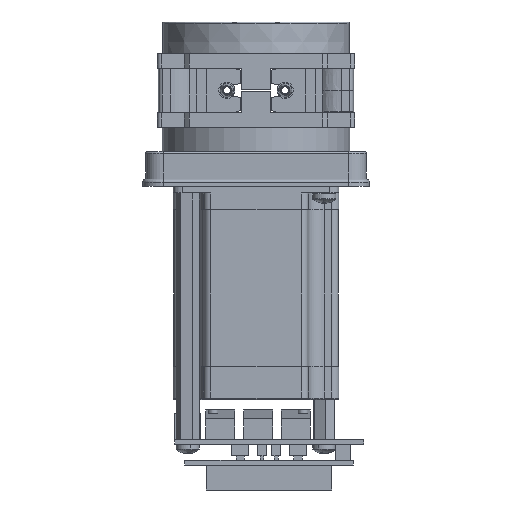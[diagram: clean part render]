
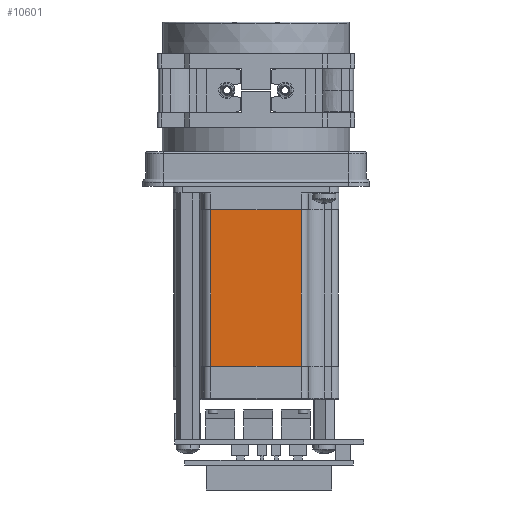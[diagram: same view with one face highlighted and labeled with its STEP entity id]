
A CAD part, front view. The second image highlights one B-rep face of the part: STEP entity #10601.
In plain terms, the highlighted planar face has unit normal (0, -1, 0).
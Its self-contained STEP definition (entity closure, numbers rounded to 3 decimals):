
#2692 = CARTESIAN_POINT ( 'NONE',  ( 15.57, -28.3, -41.1 ) ) ;
#3380 = DIRECTION ( 'NONE',  ( 0., 0., -1. ) ) ;
#3652 = ORIENTED_EDGE ( 'NONE', *, *, #19219, .T. ) ;
#4096 = VECTOR ( 'NONE', #27936, 1000. ) ;
#5145 = EDGE_CURVE ( 'NONE', #17707, #5244, #18251, .T. ) ;
#5244 = VERTEX_POINT ( 'NONE', #18756 ) ;
#5905 = EDGE_LOOP ( 'NONE', ( #23178, #3652, #10221, #12983 ) ) ;
#6300 = FACE_OUTER_BOUND ( 'NONE', #5905, .T. ) ;
#7408 = VERTEX_POINT ( 'NONE', #8119 ) ;
#8119 = CARTESIAN_POINT ( 'NONE',  ( -15.57, -28.3, -41.1 ) ) ;
#9823 = DIRECTION ( 'NONE',  ( 0., -1., 0. ) ) ;
#10221 = ORIENTED_EDGE ( 'NONE', *, *, #16330, .F. ) ;
#10235 = CARTESIAN_POINT ( 'NONE',  ( 15.57, -28.3, -41.1 ) ) ;
#10291 = EDGE_CURVE ( 'NONE', #17707, #7408, #29723, .T. ) ;
#10601 = ADVANCED_FACE ( 'NONE', ( #6300 ), #13727, .T. ) ;
#10764 = LINE ( 'NONE', #18820, #23667 ) ;
#12475 = VECTOR ( 'NONE', #3380, 1000. ) ;
#12983 = ORIENTED_EDGE ( 'NONE', *, *, #5145, .F. ) ;
#13727 = PLANE ( 'NONE',  #14000 ) ;
#14000 = AXIS2_PLACEMENT_3D ( 'NONE', #25158, #9823, #30494 ) ;
#16330 = EDGE_CURVE ( 'NONE', #5244, #18236, #10764, .T. ) ;
#17707 = VERTEX_POINT ( 'NONE', #2692 ) ;
#18236 = VERTEX_POINT ( 'NONE', #26896 ) ;
#18251 = LINE ( 'NONE', #30984, #30276 ) ;
#18687 = CARTESIAN_POINT ( 'NONE',  ( -15.57, -28.3, 50.01 ) ) ;
#18756 = CARTESIAN_POINT ( 'NONE',  ( 15.57, -28.3, -95.1 ) ) ;
#18820 = CARTESIAN_POINT ( 'NONE',  ( 15.57, -28.3, -95.1 ) ) ;
#19219 = EDGE_CURVE ( 'NONE', #7408, #18236, #25325, .T. ) ;
#19417 = DIRECTION ( 'NONE',  ( -1., 0., 0. ) ) ;
#23178 = ORIENTED_EDGE ( 'NONE', *, *, #10291, .T. ) ;
#23667 = VECTOR ( 'NONE', #19417, 1000. ) ;
#24954 = DIRECTION ( 'NONE',  ( 0., 0., -1. ) ) ;
#25158 = CARTESIAN_POINT ( 'NONE',  ( 15.57, -28.3, 50.01 ) ) ;
#25325 = LINE ( 'NONE', #18687, #12475 ) ;
#26896 = CARTESIAN_POINT ( 'NONE',  ( -15.57, -28.3, -95.1 ) ) ;
#27936 = DIRECTION ( 'NONE',  ( -1., 0., 0. ) ) ;
#29723 = LINE ( 'NONE', #10235, #4096 ) ;
#30276 = VECTOR ( 'NONE', #24954, 1000. ) ;
#30494 = DIRECTION ( 'NONE',  ( 1., 0., 0. ) ) ;
#30984 = CARTESIAN_POINT ( 'NONE',  ( 15.57, -28.3, 50.01 ) ) ;
